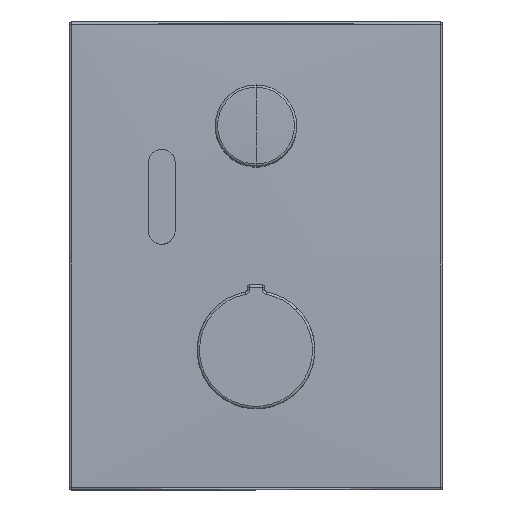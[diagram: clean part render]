
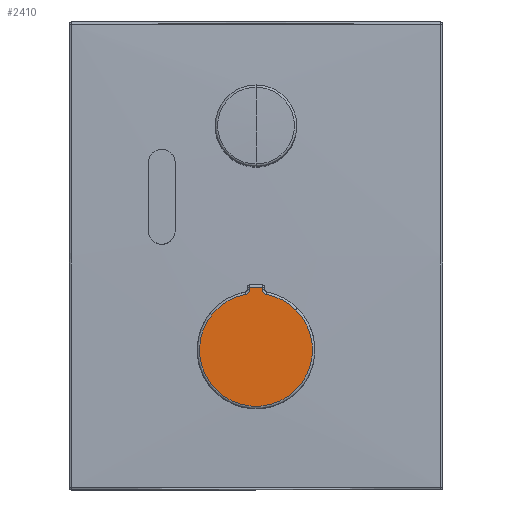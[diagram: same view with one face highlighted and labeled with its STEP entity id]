
A CAD part, top view. The second image highlights one B-rep face of the part: STEP entity #2410.
In plain terms, the highlighted planar face has unit normal (0, 0, 1).
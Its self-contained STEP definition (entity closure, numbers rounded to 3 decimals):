
#2 = CARTESIAN_POINT ( 'NONE',  ( 0., -46.408, 45.5 ) ) ;
#96 = CIRCLE ( 'NONE', #743, 24. ) ;
#152 = AXIS2_PLACEMENT_3D ( 'NONE', #1186, #1018, #2647 ) ;
#222 = ORIENTED_EDGE ( 'NONE', *, *, #903, .T. ) ;
#227 = CARTESIAN_POINT ( 'NONE',  ( 4.795, -20.855, 45.5 ) ) ;
#244 = CARTESIAN_POINT ( 'NONE',  ( 0., -46.408, 45.5 ) ) ;
#266 = CIRCLE ( 'NONE', #1550, 2. ) ;
#329 = VERTEX_POINT ( 'NONE', #1656 ) ;
#459 = DIRECTION ( 'NONE',  ( 0.707, 0.707, 0. ) ) ;
#469 = DIRECTION ( 'NONE',  ( 0.707, 0.707, 0. ) ) ;
#541 = AXIS2_PLACEMENT_3D ( 'NONE', #227, #1867, #459 ) ;
#550 = VERTEX_POINT ( 'NONE', #1614 ) ;
#558 = CARTESIAN_POINT ( 'NONE',  ( 4.426, -22.82, 45.5 ) ) ;
#640 = DIRECTION ( 'NONE',  ( 0., 0., 1. ) ) ;
#734 = DIRECTION ( 'NONE',  ( 0., 0., 1. ) ) ;
#743 = AXIS2_PLACEMENT_3D ( 'NONE', #2047, #640, #2266 ) ;
#885 = LINE ( 'NONE', #2327, #1833 ) ;
#903 = EDGE_CURVE ( 'NONE', #1200, #2223, #885, .T. ) ;
#950 = PLANE ( 'NONE',  #1963 ) ;
#1018 = DIRECTION ( 'NONE',  ( 0., 0., 1. ) ) ;
#1118 = LINE ( 'NONE', #2578, #1651 ) ;
#1133 = VECTOR ( 'NONE', #1504, 1000. ) ;
#1146 = CARTESIAN_POINT ( 'NONE',  ( 2.795, -19.77, 45.5 ) ) ;
#1158 = CARTESIAN_POINT ( 'NONE',  ( -16.97, -63.379, 45.5 ) ) ;
#1183 = VERTEX_POINT ( 'NONE', #2987 ) ;
#1186 = CARTESIAN_POINT ( 'NONE',  ( 0., -46.408, 45.5 ) ) ;
#1200 = VERTEX_POINT ( 'NONE', #1146 ) ;
#1223 = VERTEX_POINT ( 'NONE', #1158 ) ;
#1236 = CARTESIAN_POINT ( 'NONE',  ( -2.77, -20.85, 45.5 ) ) ;
#1321 = EDGE_CURVE ( 'NONE', #1183, #1378, #2760, .T. ) ;
#1378 = VERTEX_POINT ( 'NONE', #558 ) ;
#1430 = EDGE_CURVE ( 'NONE', #329, #1200, #2394, .T. ) ;
#1497 = ORIENTED_EDGE ( 'NONE', *, *, #1739, .T. ) ;
#1504 = DIRECTION ( 'NONE',  ( 0., 1., 0. ) ) ;
#1550 = AXIS2_PLACEMENT_3D ( 'NONE', #2124, #734, #2350 ) ;
#1604 = ORIENTED_EDGE ( 'NONE', *, *, #1430, .T. ) ;
#1613 = EDGE_CURVE ( 'NONE', #1223, #1183, #96, .T. ) ;
#1614 = CARTESIAN_POINT ( 'NONE',  ( -4.403, -22.816, 45.5 ) ) ;
#1651 = VECTOR ( 'NONE', #2793, 1000. ) ;
#1656 = CARTESIAN_POINT ( 'NONE',  ( 2.795, -20.855, 45.5 ) ) ;
#1713 = EDGE_CURVE ( 'NONE', #329, #1378, #2970, .T. ) ;
#1739 = EDGE_CURVE ( 'NONE', #550, #1223, #2887, .T. ) ;
#1759 = ORIENTED_EDGE ( 'NONE', *, *, #1613, .T. ) ;
#1833 = VECTOR ( 'NONE', #2321, 1000. ) ;
#1867 = DIRECTION ( 'NONE',  ( 0., 0., 1. ) ) ;
#1880 = DIRECTION ( 'NONE',  ( 0., 0., 1. ) ) ;
#1908 = ORIENTED_EDGE ( 'NONE', *, *, #2459, .F. ) ;
#1920 = ORIENTED_EDGE ( 'NONE', *, *, #2980, .T. ) ;
#1963 = AXIS2_PLACEMENT_3D ( 'NONE', #2, #3014, #2581 ) ;
#2020 = VERTEX_POINT ( 'NONE', #1236 ) ;
#2047 = CARTESIAN_POINT ( 'NONE',  ( 0., -46.408, 45.5 ) ) ;
#2108 = AXIS2_PLACEMENT_3D ( 'NONE', #244, #1880, #469 ) ;
#2124 = CARTESIAN_POINT ( 'NONE',  ( -4.77, -20.85, 45.5 ) ) ;
#2131 = FACE_OUTER_BOUND ( 'NONE', #2311, .T. ) ;
#2223 = VERTEX_POINT ( 'NONE', #2890 ) ;
#2266 = DIRECTION ( 'NONE',  ( 0.707, 0.707, 0. ) ) ;
#2311 = EDGE_LOOP ( 'NONE', ( #1604, #222, #1920, #1908, #1497, #1759, #2936, #3003 ) ) ;
#2321 = DIRECTION ( 'NONE',  ( -1., 0., 0. ) ) ;
#2327 = CARTESIAN_POINT ( 'NONE',  ( -3.77, -19.77, 45.5 ) ) ;
#2350 = DIRECTION ( 'NONE',  ( 0.707, 0.707, 0. ) ) ;
#2394 = LINE ( 'NONE', #2892, #1133 ) ;
#2410 = ADVANCED_FACE ( 'NONE', ( #2131 ), #950, .T. ) ;
#2459 = EDGE_CURVE ( 'NONE', #550, #2020, #266, .T. ) ;
#2578 = CARTESIAN_POINT ( 'NONE',  ( -2.77, -21.694, 45.5 ) ) ;
#2581 = DIRECTION ( 'NONE',  ( 0.707, 0.707, 0. ) ) ;
#2647 = DIRECTION ( 'NONE',  ( 0.707, 0.707, 0. ) ) ;
#2760 = CIRCLE ( 'NONE', #152, 24. ) ;
#2793 = DIRECTION ( 'NONE',  ( 0., -1., 0. ) ) ;
#2887 = CIRCLE ( 'NONE', #2108, 24. ) ;
#2890 = CARTESIAN_POINT ( 'NONE',  ( -2.77, -19.77, 45.5 ) ) ;
#2892 = CARTESIAN_POINT ( 'NONE',  ( 2.795, -18.77, 45.5 ) ) ;
#2936 = ORIENTED_EDGE ( 'NONE', *, *, #1321, .T. ) ;
#2970 = CIRCLE ( 'NONE', #541, 2. ) ;
#2980 = EDGE_CURVE ( 'NONE', #2223, #2020, #1118, .T. ) ;
#2987 = CARTESIAN_POINT ( 'NONE',  ( 16.97, -29.438, 45.5 ) ) ;
#3003 = ORIENTED_EDGE ( 'NONE', *, *, #1713, .F. ) ;
#3014 = DIRECTION ( 'NONE',  ( 0., 0., 1. ) ) ;
